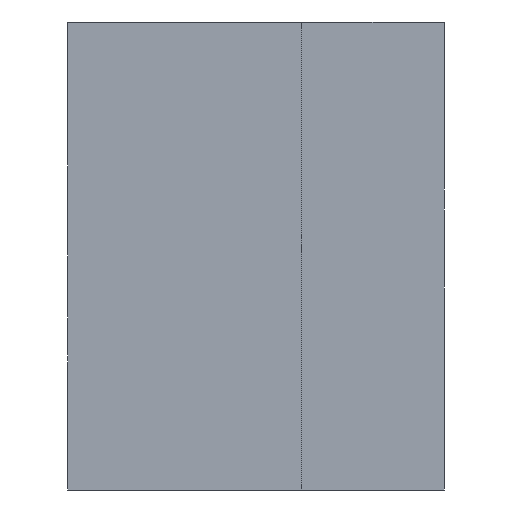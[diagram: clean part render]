
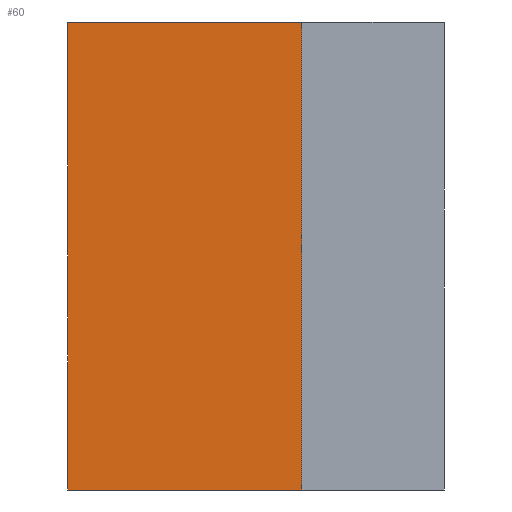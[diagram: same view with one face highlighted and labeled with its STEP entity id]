
A CAD part, left-side view. The second image highlights one B-rep face of the part: STEP entity #60.
In plain terms, the highlighted planar face has unit normal (-1, 0, 0).
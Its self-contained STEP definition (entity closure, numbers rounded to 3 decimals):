
#52=FACE_OUTER_BOUND('',#155,.T.);
#60=ADVANCED_FACE('',(#52),#76,.T.);
#76=PLANE('',#314);
#80=LINE('',#417,#98);
#94=LINE('',#453,#112);
#95=LINE('',#455,#113);
#96=LINE('',#456,#114);
#98=VECTOR('',#340,1.);
#112=VECTOR('',#370,1.);
#113=VECTOR('',#373,1.);
#114=VECTOR('',#374,1.);
#155=EDGE_LOOP('',(#202,#203,#204,#205));
#202=ORIENTED_EDGE('',*,*,#282,.F.);
#203=ORIENTED_EDGE('',*,*,#281,.F.);
#204=ORIENTED_EDGE('',*,*,#283,.T.);
#205=ORIENTED_EDGE('',*,*,#263,.T.);
#238=VERTEX_POINT('',#415);
#240=VERTEX_POINT('',#418);
#252=VERTEX_POINT('',#450);
#253=VERTEX_POINT('',#452);
#263=EDGE_CURVE('',#240,#238,#80,.T.);
#281=EDGE_CURVE('',#253,#252,#94,.T.);
#282=EDGE_CURVE('',#252,#238,#95,.T.);
#283=EDGE_CURVE('',#253,#240,#96,.T.);
#314=AXIS2_PLACEMENT_3D('',#457,#375,#376);
#340=DIRECTION('',(0.,0.,-1.));
#370=DIRECTION('',(0.,0.,-1.));
#373=DIRECTION('',(0.,1.,0.));
#374=DIRECTION('',(0.,1.,0.));
#375=DIRECTION('',(-1.,0.,0.));
#376=DIRECTION('',(0.,-1.,0.));
#415=CARTESIAN_POINT('',(0.,5.,-5.));
#417=CARTESIAN_POINT('',(0.,5.,5.));
#418=CARTESIAN_POINT('',(0.,5.,5.));
#450=CARTESIAN_POINT('',(0.,0.,-5.));
#452=CARTESIAN_POINT('',(0.,0.,5.));
#453=CARTESIAN_POINT('',(0.,0.,5.));
#455=CARTESIAN_POINT('',(0.,0.,-5.));
#456=CARTESIAN_POINT('',(0.,0.,5.));
#457=CARTESIAN_POINT('',(0.,0.,5.));
